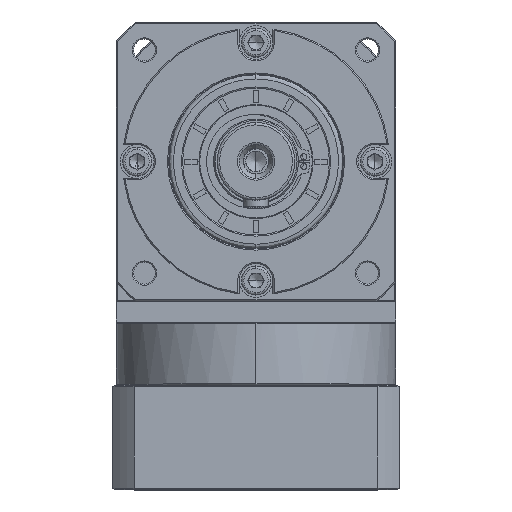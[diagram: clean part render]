
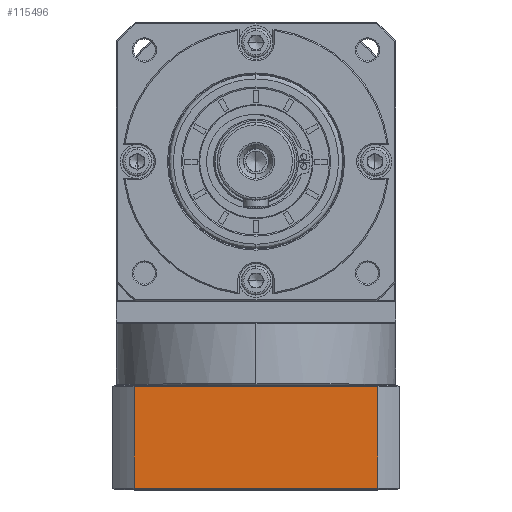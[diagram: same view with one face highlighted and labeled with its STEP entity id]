
A CAD part, top view. The second image highlights one B-rep face of the part: STEP entity #115496.
In plain terms, the highlighted planar face has unit normal (0, 0, 1).
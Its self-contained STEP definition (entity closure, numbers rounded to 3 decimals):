
#4615 = VERTEX_POINT ( 'NONE', #155497 ) ;
#5625 = CARTESIAN_POINT ( 'NONE',  ( -137.109, 94.538, 98.058 ) ) ;
#10712 = VERTEX_POINT ( 'NONE', #145792 ) ;
#12985 = PLANE ( 'NONE',  #109977 ) ;
#15552 = CARTESIAN_POINT ( 'NONE',  ( -237.613, -169.857, 98.058 ) ) ;
#16341 = LINE ( 'NONE', #15552, #150966 ) ;
#19142 = DIRECTION ( 'NONE',  ( 0., -1., 0. ) ) ;
#26485 = LINE ( 'NONE', #5625, #98052 ) ;
#27734 = VERTEX_POINT ( 'NONE', #143642 ) ;
#30193 = DIRECTION ( 'NONE',  ( 1., 0., 0. ) ) ;
#38507 = VECTOR ( 'NONE', #30193, 1000. ) ;
#39365 = LINE ( 'NONE', #102985, #173704 ) ;
#44734 = VERTEX_POINT ( 'NONE', #45588 ) ;
#45588 = CARTESIAN_POINT ( 'NONE',  ( -137.109, -127.357, 98.058 ) ) ;
#50101 = FACE_OUTER_BOUND ( 'NONE', #142767, .T. ) ;
#50989 = ORIENTED_EDGE ( 'NONE', *, *, #166979, .F. ) ;
#67092 = CARTESIAN_POINT ( 'NONE',  ( -246.361, -169.857, 98.058 ) ) ;
#70137 = CARTESIAN_POINT ( 'NONE',  ( -246.361, -127.357, 98.058 ) ) ;
#80641 = DIRECTION ( 'NONE',  ( -1., 0., 0. ) ) ;
#82651 = ORIENTED_EDGE ( 'NONE', *, *, #89595, .F. ) ;
#85421 = ORIENTED_EDGE ( 'NONE', *, *, #118944, .F. ) ;
#89595 = EDGE_CURVE ( 'NONE', #4615, #27734, #39365, .T. ) ;
#98052 = VECTOR ( 'NONE', #19142, 1000. ) ;
#102985 = CARTESIAN_POINT ( 'NONE',  ( -246.361, -169.357, 98.058 ) ) ;
#109977 = AXIS2_PLACEMENT_3D ( 'NONE', #67092, #161041, #80641 ) ;
#115496 = ADVANCED_FACE ( 'NONE', ( #50101 ), #12985, .F. ) ;
#117145 = EDGE_CURVE ( 'NONE', #10712, #44734, #149953, .T. ) ;
#118944 = EDGE_CURVE ( 'NONE', #27734, #10712, #16341, .T. ) ;
#123118 = DIRECTION ( 'NONE',  ( 0., 1., 0. ) ) ;
#142767 = EDGE_LOOP ( 'NONE', ( #50989, #173528, #85421, #82651 ) ) ;
#143642 = CARTESIAN_POINT ( 'NONE',  ( -237.613, -169.357, 98.058 ) ) ;
#145792 = CARTESIAN_POINT ( 'NONE',  ( -237.613, -127.357, 98.058 ) ) ;
#149953 = LINE ( 'NONE', #70137, #38507 ) ;
#150966 = VECTOR ( 'NONE', #123118, 1000. ) ;
#155497 = CARTESIAN_POINT ( 'NONE',  ( -137.109, -169.357, 98.058 ) ) ;
#161041 = DIRECTION ( 'NONE',  ( 0., 0., -1. ) ) ;
#166979 = EDGE_CURVE ( 'NONE', #44734, #4615, #26485, .T. ) ;
#169866 = DIRECTION ( 'NONE',  ( -1., 0., 0. ) ) ;
#173528 = ORIENTED_EDGE ( 'NONE', *, *, #117145, .F. ) ;
#173704 = VECTOR ( 'NONE', #169866, 1000. ) ;
